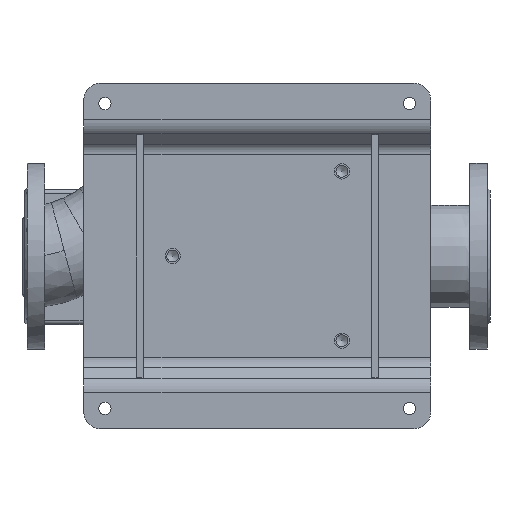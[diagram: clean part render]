
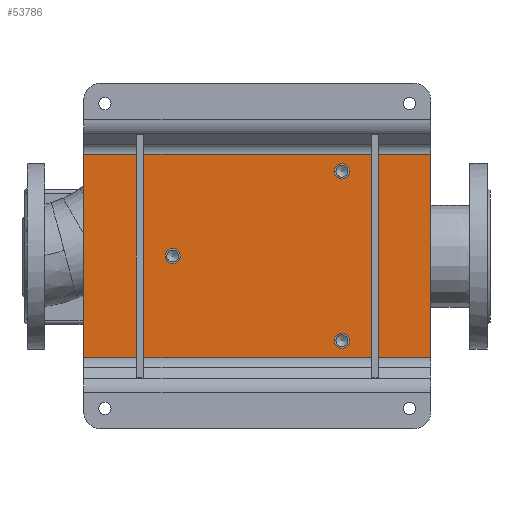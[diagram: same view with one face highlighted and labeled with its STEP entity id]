
A CAD part, top view. The second image highlights one B-rep face of the part: STEP entity #53786.
In plain terms, the highlighted planar face has unit normal (0, 0, 1) as drawn and (0, -1, 0) by its records, which use the part's own axes.
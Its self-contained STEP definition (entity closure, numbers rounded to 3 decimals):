
#1193 = CARTESIAN_POINT ( 'NONE',  ( -100., -8., 91. ) ) ;
#1222 = EDGE_CURVE ( 'NONE', #29729, #29729, #58641, .T. ) ;
#3399 = VECTOR ( 'NONE', #27291, 1000. ) ;
#6332 = DIRECTION ( 'NONE',  ( 0., -1., 0. ) ) ;
#7682 = CARTESIAN_POINT ( 'NONE',  ( 0., -8., -100. ) ) ;
#8931 = VECTOR ( 'NONE', #26451, 1000. ) ;
#9185 = LINE ( 'NONE', #53591, #3399 ) ;
#10010 = DIRECTION ( 'NONE',  ( 0., 0., -1. ) ) ;
#11403 = ORIENTED_EDGE ( 'NONE', *, *, #63556, .F. ) ;
#12871 = AXIS2_PLACEMENT_3D ( 'NONE', #37723, #25769, #74750 ) ;
#13212 = CARTESIAN_POINT ( 'NONE',  ( 120., -8., 205. ) ) ;
#13906 = ORIENTED_EDGE ( 'NONE', *, *, #45017, .F. ) ;
#15847 = FACE_BOUND ( 'NONE', #28201, .T. ) ;
#16584 = CARTESIAN_POINT ( 'NONE',  ( -120., -8., -205. ) ) ;
#16808 = VERTEX_POINT ( 'NONE', #16584 ) ;
#17513 = EDGE_LOOP ( 'NONE', ( #40325 ) ) ;
#19271 = AXIS2_PLACEMENT_3D ( 'NONE', #7682, #57847, #31542 ) ;
#21536 = CARTESIAN_POINT ( 'NONE',  ( 120., -8., 205. ) ) ;
#21624 = DIRECTION ( 'NONE',  ( 0., 0., -1. ) ) ;
#23175 = ORIENTED_EDGE ( 'NONE', *, *, #54523, .F. ) ;
#23692 = EDGE_CURVE ( 'NONE', #36642, #61648, #66359, .T. ) ;
#23975 = CIRCLE ( 'NONE', #30563, 9. ) ;
#25019 = ORIENTED_EDGE ( 'NONE', *, *, #71199, .F. ) ;
#25050 = VERTEX_POINT ( 'NONE', #33169 ) ;
#25769 = DIRECTION ( 'NONE',  ( 0., -1., 0. ) ) ;
#26451 = DIRECTION ( 'NONE',  ( -1., 0., 0. ) ) ;
#27291 = DIRECTION ( 'NONE',  ( 1., 0., 0. ) ) ;
#28201 = EDGE_LOOP ( 'NONE', ( #25019 ) ) ;
#29729 = VERTEX_POINT ( 'NONE', #44132 ) ;
#30563 = AXIS2_PLACEMENT_3D ( 'NONE', #49948, #6332, #43380 ) ;
#30905 = CARTESIAN_POINT ( 'NONE',  ( 120., -8., -205. ) ) ;
#31542 = DIRECTION ( 'NONE',  ( 0., 0., -1. ) ) ;
#31548 = EDGE_LOOP ( 'NONE', ( #70348 ) ) ;
#33169 = CARTESIAN_POINT ( 'NONE',  ( -120., -8., 205. ) ) ;
#34772 = FACE_OUTER_BOUND ( 'NONE', #42636, .T. ) ;
#36642 = VERTEX_POINT ( 'NONE', #13212 ) ;
#36978 = VECTOR ( 'NONE', #81251, 1000. ) ;
#37028 = CARTESIAN_POINT ( 'NONE',  ( 0., -8., -109. ) ) ;
#37723 = CARTESIAN_POINT ( 'NONE',  ( 100., -8., 100. ) ) ;
#40325 = ORIENTED_EDGE ( 'NONE', *, *, #1222, .F. ) ;
#42600 = LINE ( 'NONE', #75052, #36978 ) ;
#42636 = EDGE_LOOP ( 'NONE', ( #68722, #23175, #13906, #11403 ) ) ;
#43380 = DIRECTION ( 'NONE',  ( 0., 0., -1. ) ) ;
#44132 = CARTESIAN_POINT ( 'NONE',  ( 100., -8., 91. ) ) ;
#45017 = EDGE_CURVE ( 'NONE', #16808, #25050, #42600, .T. ) ;
#45549 = CIRCLE ( 'NONE', #19271, 9. ) ;
#47017 = LINE ( 'NONE', #72086, #8931 ) ;
#47955 = DIRECTION ( 'NONE',  ( 0., -1., 0. ) ) ;
#49948 = CARTESIAN_POINT ( 'NONE',  ( -100., -8., 100. ) ) ;
#50306 = VECTOR ( 'NONE', #10010, 1000. ) ;
#50493 = AXIS2_PLACEMENT_3D ( 'NONE', #60683, #47955, #21624 ) ;
#53591 = CARTESIAN_POINT ( 'NONE',  ( -120., -8., 205. ) ) ;
#53786 = ADVANCED_FACE ( 'NONE', ( #66041, #66848, #15847, #34772 ), #78374, .T. ) ;
#54523 = EDGE_CURVE ( 'NONE', #25050, #36642, #9185, .T. ) ;
#55163 = EDGE_CURVE ( 'NONE', #81052, #81052, #45549, .T. ) ;
#57545 = VERTEX_POINT ( 'NONE', #1193 ) ;
#57847 = DIRECTION ( 'NONE',  ( 0., -1., 0. ) ) ;
#58641 = CIRCLE ( 'NONE', #12871, 9. ) ;
#60683 = CARTESIAN_POINT ( 'NONE',  ( 0., -8., 0. ) ) ;
#61648 = VERTEX_POINT ( 'NONE', #30905 ) ;
#63556 = EDGE_CURVE ( 'NONE', #61648, #16808, #47017, .T. ) ;
#66041 = FACE_BOUND ( 'NONE', #17513, .T. ) ;
#66359 = LINE ( 'NONE', #21536, #50306 ) ;
#66848 = FACE_BOUND ( 'NONE', #31548, .T. ) ;
#68722 = ORIENTED_EDGE ( 'NONE', *, *, #23692, .F. ) ;
#70348 = ORIENTED_EDGE ( 'NONE', *, *, #55163, .F. ) ;
#71199 = EDGE_CURVE ( 'NONE', #57545, #57545, #23975, .T. ) ;
#72086 = CARTESIAN_POINT ( 'NONE',  ( -120., -8., -205. ) ) ;
#74750 = DIRECTION ( 'NONE',  ( 0., 0., -1. ) ) ;
#75052 = CARTESIAN_POINT ( 'NONE',  ( -120., -8., 205. ) ) ;
#78374 = PLANE ( 'NONE',  #50493 ) ;
#81052 = VERTEX_POINT ( 'NONE', #37028 ) ;
#81251 = DIRECTION ( 'NONE',  ( 0., 0., 1. ) ) ;
